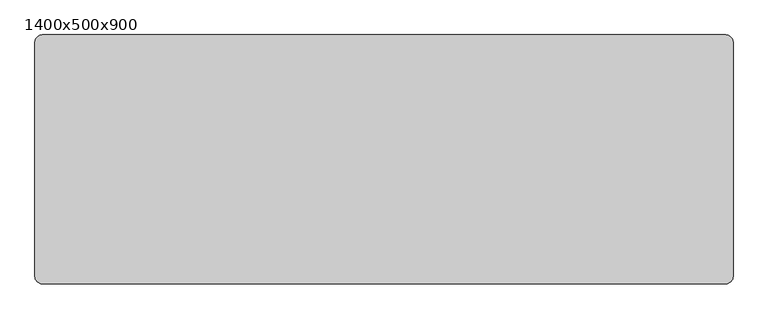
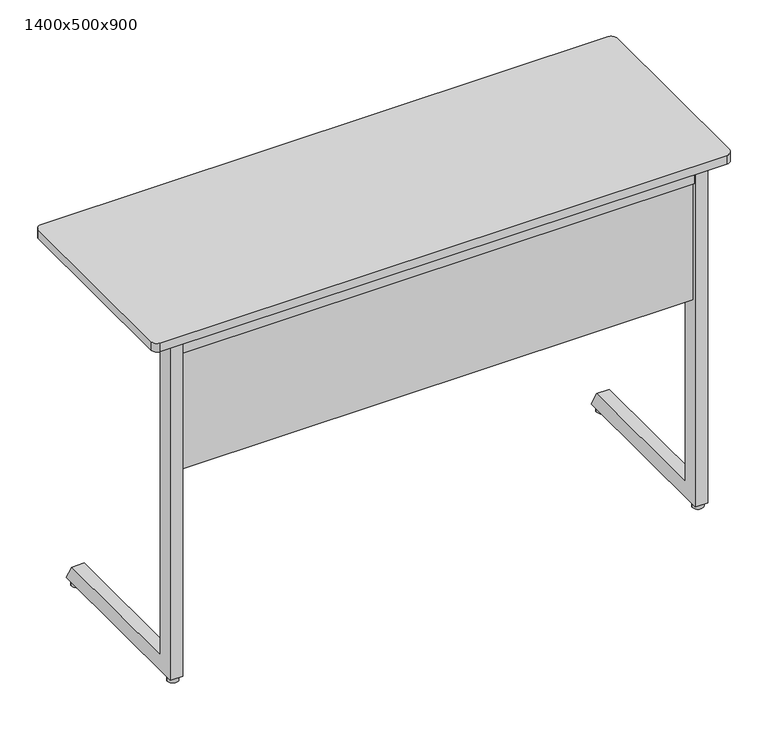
"""IFC4 building model written with IfcOpenShell, lengths in millimetres: furniture geometry, Trivia Light : 1400x500x900."""

from ifc_helpers import new_model, si_unit, point, frame, frame_2d, origin, origin_with_axes, place, context, project, spatial, polyline, circle_curve, trimmed, segment, composite_curve, outline, extrude, source, transform, mapped, element, save


def furniture_1400x500x900_2e7e93f1(model_context):
    return source(origin(), model_context, "Body", "SweptSolid", [
        extrude(outline(polyline([(434.5100173, 878.0), (419.9996059, 846.4981092), (54.0, 846.4977978), (54.0, 878.0), (434.5100173, 878.0)])), frame((-564.7535601, 0.0, 0.0), z_axis=(1.0, 0.0, 0.0), x_axis=(0.0, 1.0, 0.0)), (0.0, 0.0, 1.0), 30.0),
        extrude(outline(polyline([(873.7997437, -567.7502136), (850.730957, -567.7502136), (850.730957, -599.8065042), (855.0394353, -611.6439509), (852.2203574, -612.6700113), (847.730957, -600.3354852), (847.730957, -564.7502136), (873.7997437, -564.7502136), (873.7997437, -567.7502136)])), frame((0.0, 215.0, 0.0), z_axis=(0.0, 1.0, 0.0), x_axis=(0.0, 0.0, 1.0)), (0.0, 0.0, 1.0), 30.0),
        extrude(outline(polyline([(873.7997437, 567.7535601), (873.7997437, 564.7535601), (847.730957, 564.7535601), (847.730957, 600.3388316), (852.2203574, 612.6733577), (855.0394353, 611.6472973), (850.730957, 599.8098507), (850.730957, 567.7535601), (873.7997437, 567.7535601)])), frame((0.0, 215.0, 0.0), z_axis=(0.0, 1.0, 0.0), x_axis=(0.0, 0.0, 1.0)), (0.0, 0.0, 1.0), 30.0),
        extrude(outline(composite_curve([segment(trimmed(circle_curve(frame_2d((-635.0, 35.0)), 13.0), [point((-648.0, 35.0))], [point((-622.0, 35.0))], False, "CARTESIAN"), True, "CONTINUOUS"), segment(trimmed(circle_curve(frame_2d((-635.0, 35.0)), 13.0), [point((-622.0, 35.0))], [point((-648.0, 35.0))], False, "CARTESIAN"), True, "CONTINUOUS")], self_intersect=False)), origin_with_axes(), (0.0, 0.0, 1.0), 13.0905762),
        extrude(outline(composite_curve([segment(trimmed(circle_curve(frame_2d((635.0, 35.0)), 13.0), [point((622.0, 35.0))], [point((648.0, 35.0))], False, "CARTESIAN"), True, "CONTINUOUS"), segment(trimmed(circle_curve(frame_2d((635.0, 35.0)), 13.0), [point((648.0, 35.0))], [point((622.0, 35.0))], False, "CARTESIAN"), True, "CONTINUOUS")], self_intersect=False)), origin_with_axes(), (0.0, 0.0, 1.0), 13.0905762),
        extrude(outline(composite_curve([segment(trimmed(circle_curve(frame_2d((635.0, 437.5)), 13.0), [point((622.0, 437.5))], [point((648.0, 437.5))], False, "CARTESIAN"), True, "CONTINUOUS"), segment(trimmed(circle_curve(frame_2d((635.0, 437.5)), 13.0), [point((648.0, 437.5))], [point((622.0, 437.5))], False, "CARTESIAN"), True, "CONTINUOUS")], self_intersect=False)), origin_with_axes(), (0.0, 0.0, 1.0), 13.0905762),
        extrude(outline(composite_curve([segment(trimmed(circle_curve(frame_2d((-635.0, 437.5)), 13.0), [point((-648.0, 437.5))], [point((-622.0, 437.5))], False, "CARTESIAN"), True, "CONTINUOUS"), segment(trimmed(circle_curve(frame_2d((-635.0, 437.5)), 13.0), [point((-622.0, 437.5))], [point((-648.0, 437.5))], False, "CARTESIAN"), True, "CONTINUOUS")], self_intersect=False)), origin_with_axes(), (0.0, 0.0, 1.0), 13.0905762),
        extrude(outline(polyline([(434.5100173, 878.0), (419.9996059, 846.4981092), (54.0, 846.4977978), (54.0, 878.0), (434.5100173, 878.0)])), frame((534.7535601, 0.0, 0.0), z_axis=(1.0, 0.0, 0.0), x_axis=(0.0, 1.0, 0.0)), (0.0, 0.0, 1.0), 30.0),
        extrude(outline(composite_curve([segment(trimmed(circle_curve(frame_2d((685.0, 485.0)), 15.0), [point((685.0, 500.0))], [point((700.0, 485.0))], False, "CARTESIAN"), True, "CONTINUOUS"), segment(polyline([(700.0, 485.0), (700.0, 15.0)]), True, "CONTINUOUS"), segment(trimmed(circle_curve(frame_2d((685.0, 15.0)), 15.0), [point((700.0, 15.0))], [point((685.0, 0.0))], False, "CARTESIAN"), True, "CONTINUOUS"), segment(polyline([(685.0, 0.0), (-685.0, 0.0)]), True, "CONTINUOUS"), segment(trimmed(circle_curve(frame_2d((-685.0, 15.0)), 15.0), [point((-685.0, 0.0))], [point((-700.0, 15.0))], False, "CARTESIAN"), True, "CONTINUOUS"), segment(polyline([(-700.0, 15.0), (-700.0, 485.0)]), True, "CONTINUOUS"), segment(trimmed(circle_curve(frame_2d((-685.0, 485.0)), 15.0), [point((-700.0, 485.0))], [point((-685.0, 500.0))], False, "CARTESIAN"), True, "CONTINUOUS"), segment(polyline([(-685.0, 500.0), (685.0, 500.0)]), True, "CONTINUOUS")], self_intersect=False)), frame((0.0, 0.0, 878.0), z_axis=(0.0, 0.0, 1.0), x_axis=(1.0, 0.0, 0.0)), (0.0, 0.0, 1.0), 22.0),
        extrude(outline(polyline([(619.7534307, 54.0), (619.7534307, 24.0), (-619.7534307, 24.0), (-619.7534307, 54.0), (619.7534307, 54.0)])), frame((0.0, 0.0, 836.0), z_axis=(0.0, 0.0, 1.0), x_axis=(1.0, 0.0, 0.0)), (0.0, 0.0, 1.0), 42.0),
        extrude(outline(polyline([(62.0, 51.5905762), (432.1448423, 51.5905762), (454.8944033, 11.5905762), (20.0, 11.5905762), (20.0, 878.0), (62.0, 878.0), (62.0, 51.5905762)])), frame((-649.7535601, 0.0, 0.0), z_axis=(1.0, 0.0, 0.0), x_axis=(0.0, 1.0, 0.0)), (0.0, 0.0, 1.0), 30.0001294),
        extrude(outline(polyline([(62.0, 51.5905762), (432.1448423, 51.5905762), (454.8944033, 11.5905762), (20.0, 11.5905762), (20.0, 878.0), (62.0, 878.0), (62.0, 51.5905762)])), frame((619.7534307, 0.0, 0.0), z_axis=(1.0, 0.0, 0.0), x_axis=(0.0, 1.0, 0.0)), (0.0, 0.0, 1.0), 30.0001294),
        extrude(outline(polyline([(619.7534307, 45.9187166), (619.7534307, 27.9321552), (-619.7534307, 27.9321552), (-619.7534307, 45.9187166), (619.7534307, 45.9187166)])), frame((0.0, 0.0, 536.5950628), z_axis=(0.0, 0.0, 1.0), x_axis=(1.0, 0.0, 0.0)), (0.0, 0.0, 1.0), 299.4049372),
    ])


if __name__ == "__main__":
    model = new_model("IFC4")
    model_context = context("Model", 3, world=origin())
    ifc_project = project(units=[si_unit("LENGTHUNIT", "METRE", prefix="MILLI")], contexts=[model_context])
    site = spatial("IfcSite", under=ifc_project)
    building = spatial("IfcBuilding", under=site)
    placement = place(None, origin())
    furniture_1400x500x900_shape = furniture_1400x500x900_2e7e93f1(model_context)
    element("IfcFurniture", 1, ObjectType="Trivia Light : 1400x500x900", at=placement, inside=building, context=model_context, shape_type="MappedRepresentation", body=[
        mapped(furniture_1400x500x900_shape, transform((0.0, 0.0, 0.0), x_axis=(1.0, 0.0, 0.0), y_axis=(0.0, 1.0, 0.0), z_axis=(0.0, 0.0, 1.0))),
    ])
    save(model, "model.ifc")
